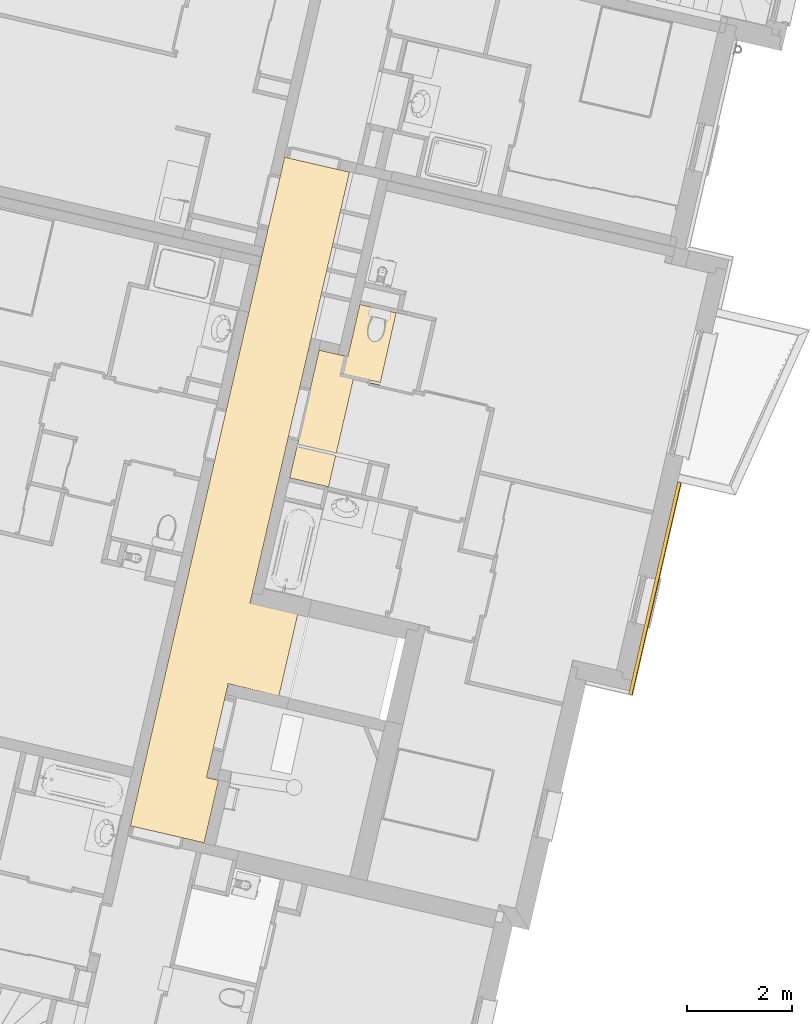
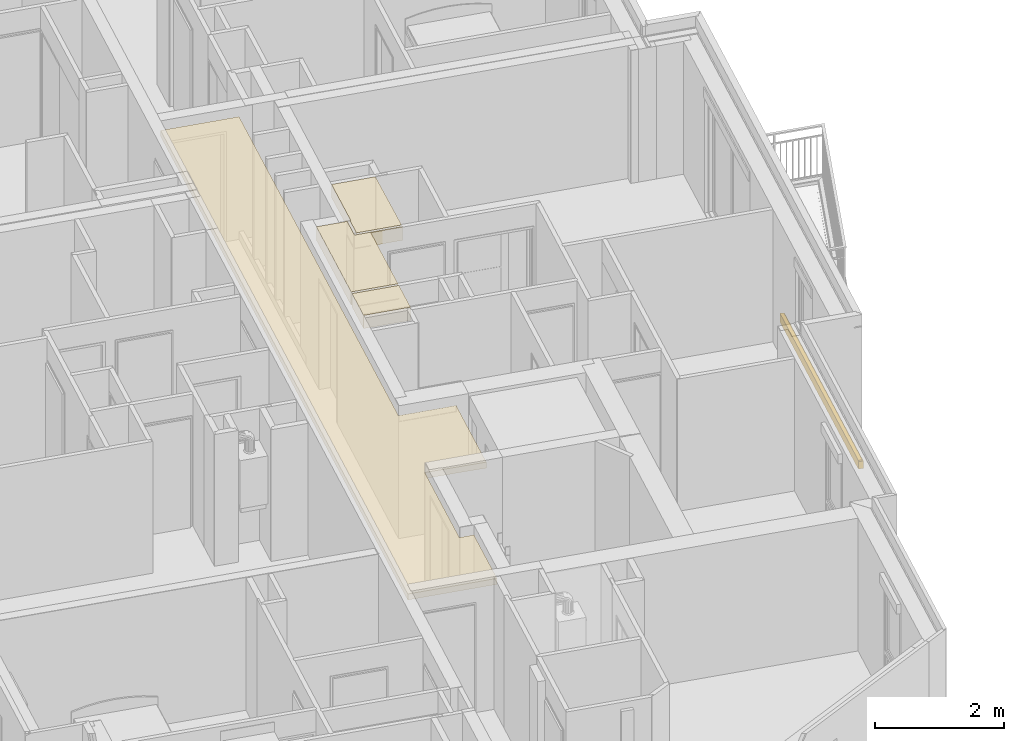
# One storey, part 41 of 62: 3 coverings.
"""IFC2X3 building model written with IfcOpenShell, lengths in metres."""

from ifc_helpers import new_model, entity, si_unit, converted_unit, derived_unit, money_unit, direction, frame, origin_with_axes, place, context, subcontext, project, spatial, faceted_brep, material, material_list, type_object, element, save


model = new_model("IFC2X3")

# Units and contexts
model_context = context("Model", 3, precision=1e-05, world=origin_with_axes(), true_north=direction((0.0, 1.0)))
body_context = subcontext(model_context, "Body", "Model", "MODEL_VIEW")
ifc_project = project(units=[si_unit("LENGTHUNIT", "METRE"), si_unit("AREAUNIT", "SQUARE_METRE"), si_unit("VOLUMEUNIT", "CUBIC_METRE"), converted_unit("PLANEANGLEUNIT", "DEGREE", entity("IfcPlaneAngleMeasure", 0.0174532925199), si_unit("PLANEANGLEUNIT", "RADIAN"), dimensions=[0, 0, 0, 0, 0, 0, 0]), si_unit("SOLIDANGLEUNIT", "STERADIAN"), money_unit("EUR"), converted_unit("TIMEUNIT", "Year", entity("IfcTimeMeasure", 31556926.0), si_unit("TIMEUNIT", "SECOND"), dimensions=[0, 0, 1, 0, 0, 0, 0]), si_unit("MASSUNIT", "GRAM", prefix="KILO"), si_unit("THERMODYNAMICTEMPERATUREUNIT", "DEGREE_CELSIUS"), si_unit("LUMINOUSINTENSITYUNIT", "LUMEN"), si_unit("ENERGYUNIT", "JOULE", prefix="MEGA"), derived_unit("THERMALCONDUCTANCEUNIT", [(si_unit("POWERUNIT", "WATT"), 1), (si_unit("LENGTHUNIT", "METRE"), -1), (si_unit("THERMODYNAMICTEMPERATUREUNIT", "KELVIN"), -1)]), derived_unit("SPECIFICHEATCAPACITYUNIT", [(si_unit("ENERGYUNIT", "JOULE"), 1), (si_unit("MASSUNIT", "GRAM", prefix="KILO"), -1), (si_unit("THERMODYNAMICTEMPERATUREUNIT", "KELVIN"), -1)]), derived_unit("MASSDENSITYUNIT", [(si_unit("MASSUNIT", "GRAM", prefix="KILO"), 1), (si_unit("VOLUMEUNIT", "CUBIC_METRE"), -1)])], contexts=[model_context])

# Site, building, storey
site_placement = place(None, origin_with_axes())
site = spatial("IfcSite", under=ifc_project, at=site_placement, Name="Site", CompositionType="ELEMENT")
building_placement = place(site_placement, origin_with_axes())
building = spatial("IfcBuilding", under=site, at=building_placement, Name="Bâtiment", CompositionType="ELEMENT")
storey_placement = place(building_placement, frame((0.0, 0.0, 8.16), z_axis=(0.0, 0.0, 1.0), x_axis=(1.0, 0.0, 0.0)))
storey = spatial("IfcBuildingStorey", under=building, at=storey_placement, Name="R+3", CompositionType="ELEMENT", Elevation=8.16)

# Coverings
ifc_material_1 = material(Name="Divers - Vide")
ifc_material_2 = material(Name="Finition int - Plaque de plâtre")
ifc_material_list = material_list([ifc_material_1, ifc_material_2])
covering_type_1 = type_object("IfcCoveringType", Name="7 - Faux-plafond BA13  113", PredefinedType="CEILING")
covering_1_placement = place(storey_placement, frame((-11.2463948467, -8.74261954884, 2.32), z_axis=(0.0, 0.0, 1.0), x_axis=(1.0, 0.0, 0.0)))
element("IfcCovering", 1, at=covering_1_placement, inside=storey, type_object=covering_type_1, material=ifc_material_list, Name="Dalle_004", PredefinedType="CEILING", context=body_context, shape_type="Brep", body=[
    faceted_brep([(0.0, 0.0, -0.1), (0.275236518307, 1.19259832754, -0.1), (0.275236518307, 1.19259832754, 0.0), (0.0, 0.0, 0.0), (-1.40784128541, 0.324911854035, -0.1), (1.53502571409, 13.0763384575, -0.1), (2.77287814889, 12.7906578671, -0.1), (0.875685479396, 4.57013241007, -0.1), (1.78635713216, 4.35996098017, -0.1), (1.42655521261, 2.80094123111, -0.1), (0.459288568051, 3.03443692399, -0.1), (0.046403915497, 1.2454099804, -0.1), (0.046403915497, 1.2454099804, 0.0), (-1.40784128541, 0.324911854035, 0.0), (0.459288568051, 3.03443692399, 0.0), (1.42655521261, 2.80094123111, 0.0), (1.78635713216, 4.35996098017, 0.0), (0.875685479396, 4.57013241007, 0.0), (2.77287814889, 12.7906578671, 0.0), (1.53502571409, 13.0763384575, 0.0)], [[[0, 1, 2, 3]], [[1, 0, 4, 5, 6, 7, 8, 9, 10, 11]], [[1, 11, 12, 2]], [[13, 3, 2, 12, 14, 15, 16, 17, 18, 19]], [[4, 0, 3, 13]], [[5, 4, 13, 19]], [[6, 5, 19, 18]], [[7, 6, 18, 17]], [[8, 7, 17, 16]], [[9, 8, 16, 15]], [[10, 9, 15, 14]], [[11, 10, 14, 12]]]),
    faceted_brep([(0.0, 0.0, -0.1), (0.0, 0.0, -0.113), (0.275236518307, 1.19259832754, -0.113), (0.275236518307, 1.19259832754, -0.1), (-1.40784128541, 0.324911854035, -0.1), (-1.40784128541, 0.324911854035, -0.113), (1.53502571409, 13.0763384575, -0.113), (2.77287814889, 12.7906578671, -0.113), (0.875685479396, 4.57013241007, -0.113), (1.78635713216, 4.35996098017, -0.113), (1.42655521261, 2.80094123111, -0.113), (0.459288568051, 3.03443692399, -0.113), (0.046403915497, 1.2454099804, -0.113), (0.046403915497, 1.2454099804, -0.1), (0.459288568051, 3.03443692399, -0.1), (1.42655521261, 2.80094123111, -0.1), (1.78635713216, 4.35996098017, -0.1), (0.875685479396, 4.57013241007, -0.1), (2.77287814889, 12.7906578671, -0.1), (1.53502571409, 13.0763384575, -0.1)], [[[0, 1, 2, 3]], [[4, 5, 1, 0]], [[2, 1, 5, 6, 7, 8, 9, 10, 11, 12]], [[3, 2, 12, 13]], [[4, 0, 3, 13, 14, 15, 16, 17, 18, 19]], [[19, 6, 5, 4]], [[18, 7, 6, 19]], [[17, 8, 7, 18]], [[16, 9, 8, 17]], [[15, 10, 9, 16]], [[14, 11, 10, 15]], [[13, 12, 11, 14]]]),
])
ifc_material_3 = material(Name="Finition sol - Carrelage")
covering_type_2 = type_object("IfcCoveringType", Name="Bandeau de façade composite 80 x 165", PredefinedType="USERDEFINED")
covering_2_placement = place(storey_placement, frame((-3.07592245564, -5.93813400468, -0.165), z_axis=(0.0, 0.0, 1.0), x_axis=(0.22487619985, 0.974387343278, 0.0)))
element("IfcCovering", 2, at=covering_2_placement, inside=storey, type_object=covering_type_2, material=ifc_material_3, Name="Bandeaux de façade préfa composite", ObjectType="MOLDING", PredefinedType="USERDEFINED", context=body_context, shape_type="Brep", body=[
    faceted_brep([(1.78814030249e-09, 0.0, 0.0), (4.16334628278, 0.0, 0.0), (4.16334628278, 0.0, 0.00621912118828), (4.16334628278, 0.0, 0.144794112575), (1.78814030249e-09, 0.0, 0.144794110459), (1.77396319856e-09, 0.0125528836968, 0.0), (4.16334628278, 0.0125528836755, 0.0), (4.16334628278, 0.0177527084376, 0.00621912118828), (4.16334628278, 0.0258592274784, 0.00621912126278), (4.16334628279, 0.0799999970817, 0.00621912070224), (4.16334628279, 0.0799999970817, 0.165), (4.16334628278, 0.0142855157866, 0.160000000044), (0.0142855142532, 0.0142855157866, 0.160000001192), (1.69779124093e-09, 0.08, 0.144794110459), (0.0, 0.08, 0.00621912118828), (0.0, 0.0258592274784, 0.00621912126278), (1.76809056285e-09, 0.0177527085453, 0.00621912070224), (0.0177527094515, 0.0258592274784, 0.00621912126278), (0.0258592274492, 0.0258592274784, 0.00621912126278), (4.16334628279, 0.0799999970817, 0.0), (4.16334628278, 0.0310590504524, 0.0), (0.0310590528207, 0.08, 0.0), (0.025859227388, 0.08, 0.00621912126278), (0.0177527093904, 0.08, 0.00621912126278), (0.014285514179, 0.08, 0.160000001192), (0.0799999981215, 0.08, 0.164999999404), (0.031059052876, 0.0310590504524, 0.0)], [[[0, 1, 2, 3, 4]], [[5, 6, 1, 0]], [[6, 7, 2, 1]], [[3, 2, 7, 8, 9, 10, 11]], [[4, 3, 11, 12]], [[13, 14, 15, 16, 5, 0, 4]], [[16, 7, 6, 5]], [[15, 17, 18, 8, 7, 16]], [[19, 9, 8, 20]], [[21, 22, 23, 14, 13, 24, 25, 10, 9, 19]], [[12, 11, 10, 25]], [[24, 13, 4, 12]], [[14, 23, 17, 15]], [[22, 18, 17, 23]], [[8, 18, 26, 20]], [[20, 26, 21, 19]], [[21, 26, 18, 22]], [[25, 24, 12]]]),
])
covering_type_3 = type_object("IfcCoveringType", Name="Finition int - Plaque de plâtre 250", PredefinedType="CEILING")
covering_3_placement = place(storey_placement, frame((-9.61396697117, -1.78290472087, 2.5), z_axis=(0.0, 0.0, 1.0), x_axis=(1.0, 0.0, 0.0)))
element("IfcCovering", 3, at=covering_3_placement, inside=storey, type_object=covering_type_3, material=ifc_material_2, Name="Dalle_003", PredefinedType="CEILING", context=body_context, shape_type="Brep", body=[
    faceted_brep([(0.740534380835, -0.170905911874, -0.25), (0.878383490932, 0.426393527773, -0.25), (0.878383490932, 0.426393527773, 0.0), (0.740534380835, -0.170905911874, 0.0), (0.0, 0.0, -0.25), (0.137849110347, 0.597299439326, -0.25), (0.137849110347, 0.597299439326, 0.0), (0.0, 0.0, 0.0)], [[[0, 1, 2, 3]], [[4, 5, 1, 0]], [[5, 6, 2, 1]], [[3, 2, 6, 7]], [[3, 7, 4, 0]], [[7, 6, 5, 4]]]),
    faceted_brep([(0.961382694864, 1.94666723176, 0.0), (0.972176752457, 1.99343782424, 0.0), (1.04840978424, 2.32375513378, 0.0), (0.562190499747, 2.43596835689, 0.0), (0.148643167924, 0.644070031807, 0.0), (0.889177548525, 0.473164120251, 0.0), (1.21277440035, 1.87530750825, 0.0), (1.71754347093, 1.76158335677, 0.0), (1.71980752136, 1.77163243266, 0.0), (0.961382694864, 1.94666723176, -0.25), (0.972176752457, 1.99343782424, -0.25), (1.04840978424, 2.32375513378, -0.25), (0.562190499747, 2.43596835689, -0.25), (0.148643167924, 0.644070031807, -0.25), (0.889177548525, 0.473164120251, -0.25), (1.21277440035, 1.87530750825, -0.25), (1.71754347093, 1.76158335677, -0.25), (1.71980752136, 1.77163243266, -0.25)], [[[0, 1, 2, 3, 4, 5, 6, 7, 8]], [[9, 10, 1, 0]], [[10, 11, 2, 1]], [[3, 2, 11, 12]], [[12, 13, 4, 3]], [[13, 14, 5, 4]], [[6, 5, 14, 15]], [[7, 6, 15, 16]], [[16, 17, 8, 7]], [[9, 0, 8, 17]], [[12, 11, 10, 9, 17, 16, 15, 14, 13]]]),
    faceted_brep([(1.10784741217, 2.3100376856, -0.25), (1.09518037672, 2.31296107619, -0.25), (1.09518037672, 2.31296107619, 0.0), (1.10784741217, 2.3100376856, 0.0), (1.73035759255, 1.8184593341, -0.25), (1.01894734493, 1.98264376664, -0.25), (1.33812064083, 3.30781032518, -0.25), (2.02993565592, 3.14814822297, -0.25), (1.01894734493, 1.98264376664, 0.0), (1.73035759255, 1.8184593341, 0.0), (2.02993565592, 3.14814822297, 0.0), (1.33812064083, 3.30781032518, 0.0)], [[[0, 1, 2, 3]], [[4, 5, 1, 0, 6, 7]], [[5, 8, 2, 1]], [[3, 2, 8, 9, 10, 11]], [[3, 11, 6, 0]], [[9, 8, 5, 4]], [[11, 10, 7, 6]], [[10, 9, 4, 7]]]),
])

save(model, "model.ifc")
